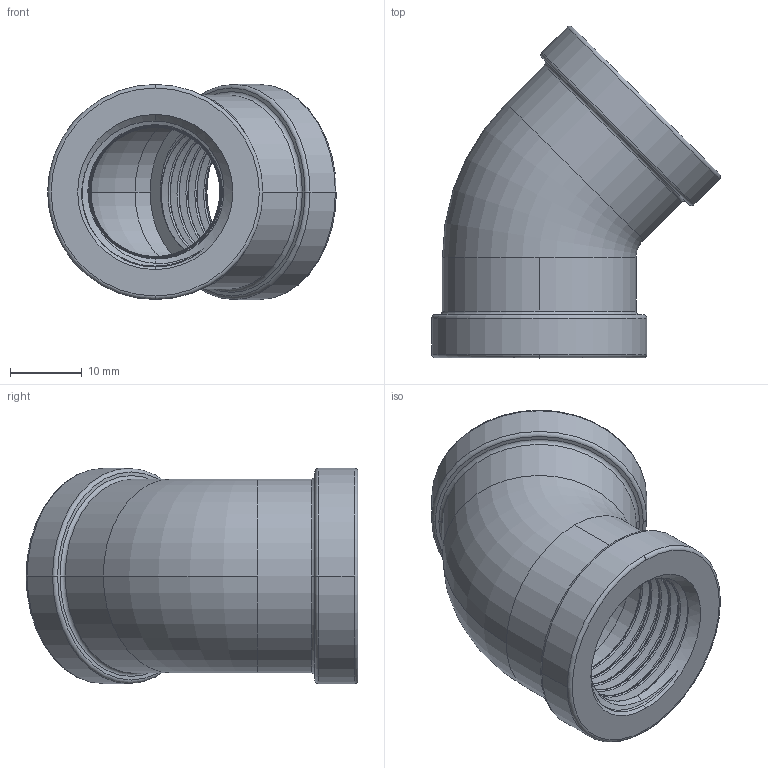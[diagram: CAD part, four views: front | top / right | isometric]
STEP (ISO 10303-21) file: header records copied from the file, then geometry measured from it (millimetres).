
FILE_DESCRIPTION (( 'STEP AP214' ), '1' );
FILE_NAME ('45deg-thread-Elbow-band_15A.STEP', '2022-02-13T09:24:33', ( 'ASIS User' ), ( 'ASIS User' ), 'SwSTEP 2.0', 'SolidWorks 2021', '' );
FILE_SCHEMA (( 'AUTOMOTIVE_DESIGN' ));
Length unit declared in the file: millimetre
Products named in the file (1): 45deg-thread-Elbow-band_15A
Bounding box: 40.25 x 46.25 x 30 mm (x, y, z)
Volume: 11313.1 mm3; surface area: 8226.2 mm2
Topology: 1 solids, 1 shells, 69 faces, 262 edges, 199 vertices
Faces by surface type: cone 23, torus 16, cylinder 12, bspline 12, plane 6
Entity records: 10035 total; most frequent: CARTESIAN_POINT 8058, ORIENTED_EDGE 516, DIRECTION 281, EDGE_CURVE 258, VERTEX_POINT 197, B_SPLINE_CURVE_WITH_KNOTS 161, AXIS2_PLACEMENT_3D 126, EDGE_LOOP 73
